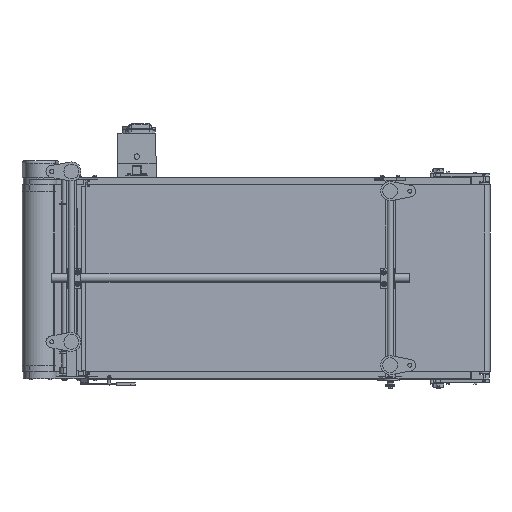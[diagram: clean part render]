
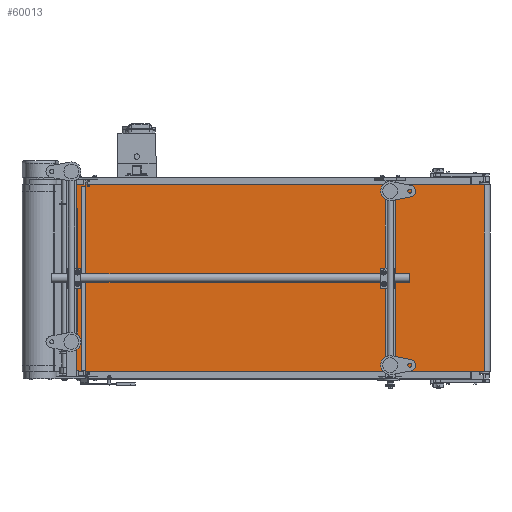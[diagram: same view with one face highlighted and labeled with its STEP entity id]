
A CAD part, front view. The second image highlights one B-rep face of the part: STEP entity #60013.
In plain terms, the highlighted planar face has unit normal (0.009, -1, 0).
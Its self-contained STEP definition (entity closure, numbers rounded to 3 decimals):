
#412 = VERTEX_POINT ( 'NONE', #65163 ) ;
#812 = VECTOR ( 'NONE', #21388, 1000. ) ;
#926 = VERTEX_POINT ( 'NONE', #48892 ) ;
#1378 = PLANE ( 'NONE',  #32478 ) ;
#2453 = LINE ( 'NONE', #22822, #60516 ) ;
#2556 = CARTESIAN_POINT ( 'NONE',  ( 150.47, -44.938, -300. ) ) ;
#5538 = LINE ( 'NONE', #34335, #812 ) ;
#8422 = CARTESIAN_POINT ( 'NONE',  ( 150.47, -44.938, 300. ) ) ;
#8933 = EDGE_CURVE ( 'NONE', #24846, #926, #59644, .T. ) ;
#13084 = DIRECTION ( 'NONE',  ( -0.009, 1., 0. ) ) ;
#14127 = DIRECTION ( 'NONE',  ( 0., 0., -1. ) ) ;
#17223 = VECTOR ( 'NONE', #14127, 1000. ) ;
#21388 = DIRECTION ( 'NONE',  ( 0., 0., -1. ) ) ;
#22822 = CARTESIAN_POINT ( 'NONE',  ( 1483.164, -32.999, -300. ) ) ;
#24846 = VERTEX_POINT ( 'NONE', #8422 ) ;
#25639 = ORIENTED_EDGE ( 'NONE', *, *, #8933, .F. ) ;
#31715 = DIRECTION ( 'NONE',  ( -1., -0.009, 0. ) ) ;
#32275 = CARTESIAN_POINT ( 'NONE',  ( 1483.164, -32.999, 300. ) ) ;
#32478 = AXIS2_PLACEMENT_3D ( 'NONE', #73908, #13084, #31715 ) ;
#34335 = CARTESIAN_POINT ( 'NONE',  ( 150.47, -44.938, 300. ) ) ;
#40646 = EDGE_CURVE ( 'NONE', #55232, #412, #2453, .T. ) ;
#42547 = EDGE_LOOP ( 'NONE', ( #74738, #63529, #25639, #62634 ) ) ;
#46671 = LINE ( 'NONE', #50565, #17223 ) ;
#48892 = CARTESIAN_POINT ( 'NONE',  ( 1483.164, -32.999, 300. ) ) ;
#50565 = CARTESIAN_POINT ( 'NONE',  ( 1483.164, -32.999, 300. ) ) ;
#55232 = VERTEX_POINT ( 'NONE', #2556 ) ;
#58438 = DIRECTION ( 'NONE',  ( 1., 0.009, 0. ) ) ;
#58657 = VECTOR ( 'NONE', #62808, 1000. ) ;
#59644 = LINE ( 'NONE', #32275, #58657 ) ;
#60013 = ADVANCED_FACE ( 'NONE', ( #60404 ), #1378, .F. ) ;
#60404 = FACE_OUTER_BOUND ( 'NONE', #42547, .T. ) ;
#60516 = VECTOR ( 'NONE', #58438, 1000. ) ;
#62634 = ORIENTED_EDGE ( 'NONE', *, *, #63758, .T. ) ;
#62808 = DIRECTION ( 'NONE',  ( 1., 0.009, 0. ) ) ;
#63529 = ORIENTED_EDGE ( 'NONE', *, *, #76199, .F. ) ;
#63758 = EDGE_CURVE ( 'NONE', #24846, #55232, #5538, .T. ) ;
#65163 = CARTESIAN_POINT ( 'NONE',  ( 1483.164, -32.999, -300. ) ) ;
#73908 = CARTESIAN_POINT ( 'NONE',  ( 1483.164, -32.999, 300. ) ) ;
#74738 = ORIENTED_EDGE ( 'NONE', *, *, #40646, .T. ) ;
#76199 = EDGE_CURVE ( 'NONE', #926, #412, #46671, .T. ) ;
